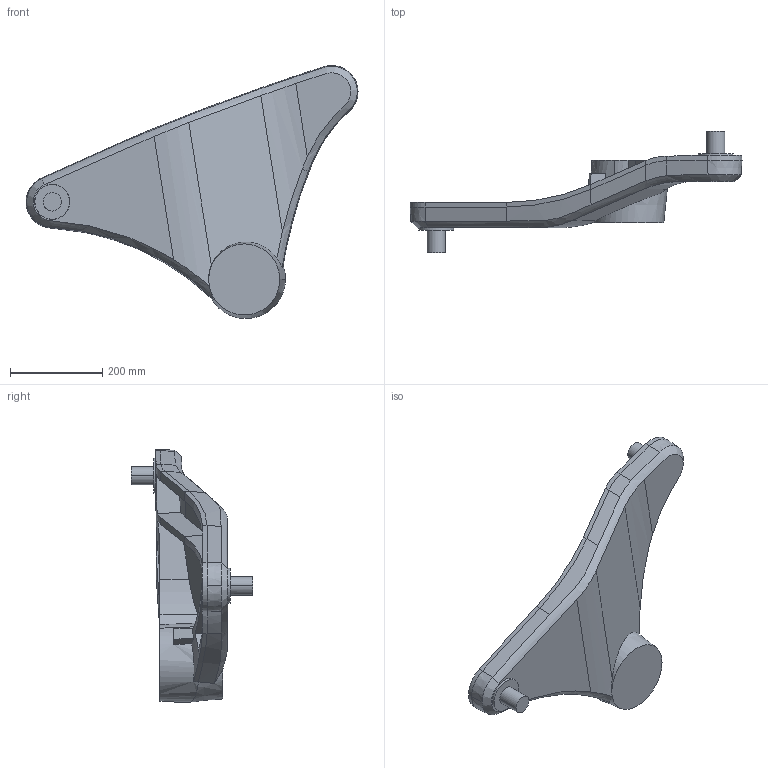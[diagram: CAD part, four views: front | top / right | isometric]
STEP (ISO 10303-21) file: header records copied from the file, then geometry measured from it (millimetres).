
FILE_DESCRIPTION (( 'STEP AP214' ), '1' );
FILE_NAME ('IRB760_445-318_Link_CAD_rev00.STEP', '2020-02-03T12:38:52', ( '' ), ( '' ), 'SwSTEP 2.0', 'SolidWorks 2018', '' );
FILE_SCHEMA (( 'AUTOMOTIVE_DESIGN' ));
Length unit declared in the file: millimetre
Products named in the file (2): IRB760_445-318_Link_CAD_rev00
Bounding box: 721.36 x 264.25 x 549.72 mm (x, y, z)
Volume: 7991064.2 mm3; surface area: 719170.7 mm2
Topology: 1 solids, 1 shells, 150 faces, 394 edges, 252 vertices
Faces by surface type: plane 44, bspline 42, cone 31, cylinder 29, torus 4
Entity records: 12860 total; most frequent: CARTESIAN_POINT 7939, ORIENTED_EDGE 788, DIRECTION 490, EDGE_CURVE 394, VERTEX_POINT 252, AXIS2_PLACEMENT_3D 178, B_SPLINE_CURVE_WITH_KNOTS 172, EDGE_LOOP 156
